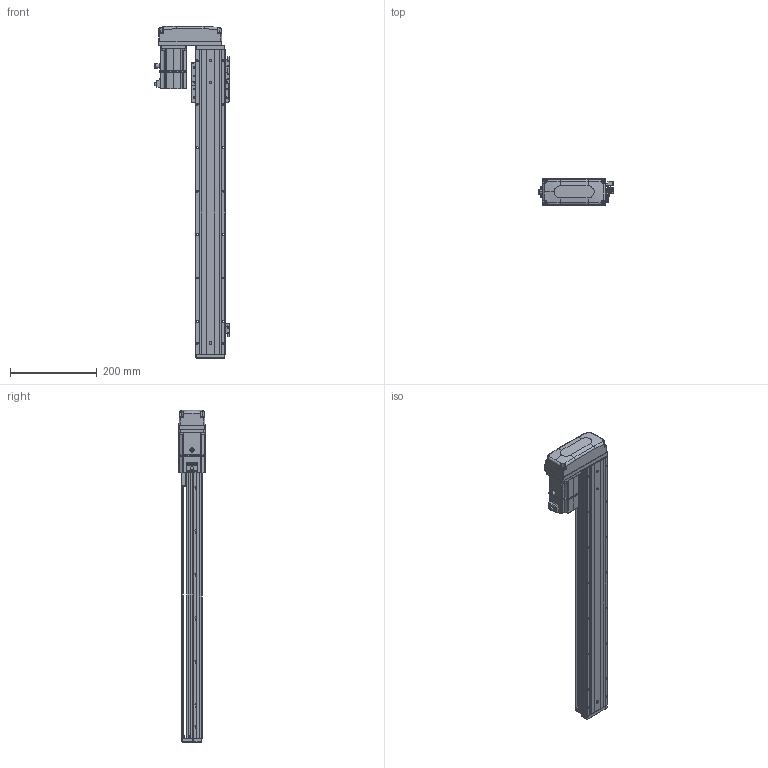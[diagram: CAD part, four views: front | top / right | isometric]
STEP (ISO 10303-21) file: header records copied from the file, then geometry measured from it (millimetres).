
FILE_DESCRIPTION (( 'STEP AP203' ), '1' );
FILE_NAME ('KTHAL60-550-BR-M20-C4L.step', '2022-12-16T02:15:55', ( '微软用户' ), ( '微软中国' ), 'SwSTEP 2.0', 'SolidWorks 2020', '' );
FILE_SCHEMA (( 'CONFIG_CONTROL_DESIGN' ));
Length unit declared in the file: millimetre
Products named in the file (17): KTHA60-005; GBT77-2000M3-3; GB¨uT 70.2-M3¡Á5_M3¡Á6; GBT 70.1-M3℅6; GBT 70.3-M3℅6; CTHA60-016; EE_SX911P_R; _X2_4E0983F1_X0_200W_1; KTHA60-001_700; CTHA60-017; CTHA60-015-4_CTHA60-015-4; KTHLA60-002; CTHA60-021; GTH80-026; KTHA60-004; GBT 70.1-M4×16; KTHAL60-550-BR-M20-C4L
Assembly tree (45 placements, depth 2):
  KTHAL60-550-BR-M20-C4L
    KTHA60-001_700
    KTHLA60-002
    KTHA60-004
    KTHA60-005
    GB¨uT 70.2-M3¡Á5_M3¡Á6  x5
    GBT 70.3-M3℅6  x4
    EE_SX911P_R  x3
    CTHA60-017  x3
    CTHA60-021  x2
    GBT 70.1-M4×16  x8
    GBT77-2000M3-3  x6
    GBT 70.1-M3℅6  x6
    CTHA60-016
    _X2_4E0983F1_X0_200W_1
    CTHA60-015-4_CTHA60-015-4
    GTH80-026
Bounding box: 173.02 x 62.42 x 764 mm (x, y, z)
Volume: 2004960.1 mm3; surface area: 432007.5 mm2
Topology: 48 solids, 48 shells, 2371 faces, 5660 edges, 3481 vertices
Faces by surface type: plane 1271, cylinder 629, cone 272, bspline 103, torus 82, sphere 14
Entity records: 46539 total; most frequent: CARTESIAN_POINT 10378, DIRECTION 7031, ORIENTED_EDGE 6944, EDGE_CURVE 3472, AXIS2_PLACEMENT_3D 2418, VECTOR 2195, LINE 2195, VERTEX_POINT 2165
